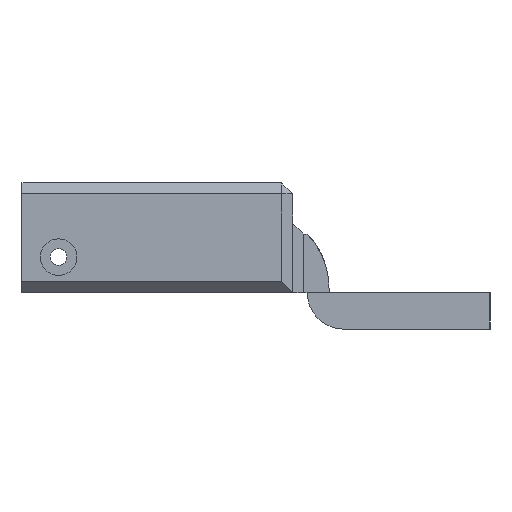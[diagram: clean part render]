
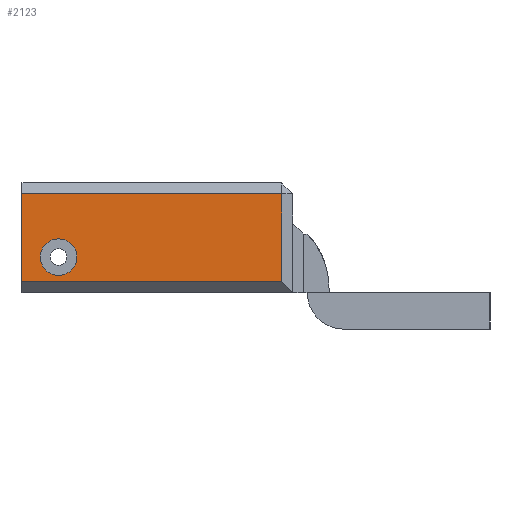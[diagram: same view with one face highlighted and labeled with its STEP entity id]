
A CAD part, left-side view. The second image highlights one B-rep face of the part: STEP entity #2123.
In plain terms, the highlighted planar face has unit normal (-1, 0, 0).
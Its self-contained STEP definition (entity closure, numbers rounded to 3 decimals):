
#170 = VERTEX_POINT('',#171);
#171 = CARTESIAN_POINT('',(-20.,37.,3.35));
#178 = CYLINDRICAL_SURFACE('',#179,2.5);
#179 = AXIS2_PLACEMENT_3D('',#180,#181,#182);
#180 = CARTESIAN_POINT('',(-19.9,37.,0.85));
#181 = DIRECTION('',(-1.,-0.,-0.));
#182 = DIRECTION('',(-0.,0.,1.));
#190 = CYLINDRICAL_SURFACE('',#191,2.5);
#191 = AXIS2_PLACEMENT_3D('',#192,#193,#194);
#192 = CARTESIAN_POINT('',(-19.9,37.,0.85));
#193 = DIRECTION('',(-1.,-0.,-0.));
#194 = DIRECTION('',(-0.,0.,1.));
#202 = EDGE_CURVE('',#203,#170,#205,.T.);
#203 = VERTEX_POINT('',#204);
#204 = CARTESIAN_POINT('',(-20.,37.,-1.65));
#205 = SURFACE_CURVE('',#206,(#211,#218),.PCURVE_S1.);
#206 = CIRCLE('',#207,2.5);
#207 = AXIS2_PLACEMENT_3D('',#208,#209,#210);
#208 = CARTESIAN_POINT('',(-20.,37.,0.85));
#209 = DIRECTION('',(-1.,0.,0.));
#210 = DIRECTION('',(0.,0.,1.));
#211 = PCURVE('',#178,#212);
#212 = DEFINITIONAL_REPRESENTATION('',(#213),#217);
#213 = LINE('',#214,#215);
#214 = CARTESIAN_POINT('',(0.,0.1));
#215 = VECTOR('',#216,1.);
#216 = DIRECTION('',(1.,0.));
#217 = ( GEOMETRIC_REPRESENTATION_CONTEXT(2) 
PARAMETRIC_REPRESENTATION_CONTEXT() REPRESENTATION_CONTEXT('2D SPACE',''
  ) );
#218 = PCURVE('',#219,#224);
#219 = PLANE('',#220);
#220 = AXIS2_PLACEMENT_3D('',#221,#222,#223);
#221 = CARTESIAN_POINT('',(-20.,5.,-4.));
#222 = DIRECTION('',(-1.,0.,0.));
#223 = DIRECTION('',(0.,0.,1.));
#224 = DEFINITIONAL_REPRESENTATION('',(#225),#229);
#225 = CIRCLE('',#226,2.5);
#226 = AXIS2_PLACEMENT_2D('',#227,#228);
#227 = CARTESIAN_POINT('',(4.85,32.));
#228 = DIRECTION('',(1.,0.));
#229 = ( GEOMETRIC_REPRESENTATION_CONTEXT(2) 
PARAMETRIC_REPRESENTATION_CONTEXT() REPRESENTATION_CONTEXT('2D SPACE',''
  ) );
#1333 = PLANE('',#1334);
#1334 = AXIS2_PLACEMENT_3D('',#1335,#1336,#1337);
#1335 = CARTESIAN_POINT('',(-18.5,7.,-4.));
#1336 = DIRECTION('',(-0.707,-0.,-0.707));
#1337 = DIRECTION('',(0.,-1.,0.));
#1361 = PLANE('',#1362);
#1362 = AXIS2_PLACEMENT_3D('',#1363,#1364,#1365);
#1363 = CARTESIAN_POINT('',(0.,42.,0.));
#1364 = DIRECTION('',(0.,1.,0.));
#1365 = DIRECTION('',(0.,-0.,1.));
#1745 = PLANE('',#1746);
#1746 = AXIS2_PLACEMENT_3D('',#1747,#1748,#1749);
#1747 = CARTESIAN_POINT('',(-20.,6.5,-4.));
#1748 = DIRECTION('',(-0.707,-0.707,-0.));
#1749 = DIRECTION('',(0.,0.,-1.));
#2012 = PLANE('',#2013);
#2013 = AXIS2_PLACEMENT_3D('',#2014,#2015,#2016);
#2014 = CARTESIAN_POINT('',(-20.,5.,9.5));
#2015 = DIRECTION('',(0.707,0.,-0.707));
#2016 = DIRECTION('',(0.,1.,0.));
#2123 = ADVANCED_FACE('',(#2124,#2149),#219,.T.);
#2124 = FACE_BOUND('',#2125,.T.);
#2125 = EDGE_LOOP('',(#2126,#2148));
#2126 = ORIENTED_EDGE('',*,*,#2127,.F.);
#2127 = EDGE_CURVE('',#170,#203,#2128,.T.);
#2128 = SURFACE_CURVE('',#2129,(#2134,#2141),.PCURVE_S1.);
#2129 = CIRCLE('',#2130,2.5);
#2130 = AXIS2_PLACEMENT_3D('',#2131,#2132,#2133);
#2131 = CARTESIAN_POINT('',(-20.,37.,0.85));
#2132 = DIRECTION('',(-1.,0.,0.));
#2133 = DIRECTION('',(0.,0.,1.));
#2134 = PCURVE('',#219,#2135);
#2135 = DEFINITIONAL_REPRESENTATION('',(#2136),#2140);
#2136 = CIRCLE('',#2137,2.5);
#2137 = AXIS2_PLACEMENT_2D('',#2138,#2139);
#2138 = CARTESIAN_POINT('',(4.85,32.));
#2139 = DIRECTION('',(1.,0.));
#2140 = ( GEOMETRIC_REPRESENTATION_CONTEXT(2) 
PARAMETRIC_REPRESENTATION_CONTEXT() REPRESENTATION_CONTEXT('2D SPACE',''
  ) );
#2141 = PCURVE('',#190,#2142);
#2142 = DEFINITIONAL_REPRESENTATION('',(#2143),#2147);
#2143 = LINE('',#2144,#2145);
#2144 = CARTESIAN_POINT('',(0.,0.1));
#2145 = VECTOR('',#2146,1.);
#2146 = DIRECTION('',(1.,0.));
#2147 = ( GEOMETRIC_REPRESENTATION_CONTEXT(2) 
PARAMETRIC_REPRESENTATION_CONTEXT() REPRESENTATION_CONTEXT('2D SPACE',''
  ) );
#2148 = ORIENTED_EDGE('',*,*,#202,.F.);
#2149 = FACE_BOUND('',#2150,.T.);
#2150 = EDGE_LOOP('',(#2151,#2176,#2199,#2222));
#2151 = ORIENTED_EDGE('',*,*,#2152,.T.);
#2152 = EDGE_CURVE('',#2153,#2155,#2157,.T.);
#2153 = VERTEX_POINT('',#2154);
#2154 = CARTESIAN_POINT('',(-20.,6.5,-2.5));
#2155 = VERTEX_POINT('',#2156);
#2156 = CARTESIAN_POINT('',(-20.,6.5,9.5));
#2157 = SURFACE_CURVE('',#2158,(#2162,#2169),.PCURVE_S1.);
#2158 = LINE('',#2159,#2160);
#2159 = CARTESIAN_POINT('',(-20.,6.5,11.));
#2160 = VECTOR('',#2161,1.);
#2161 = DIRECTION('',(0.,-0.,1.));
#2162 = PCURVE('',#219,#2163);
#2163 = DEFINITIONAL_REPRESENTATION('',(#2164),#2168);
#2164 = LINE('',#2165,#2166);
#2165 = CARTESIAN_POINT('',(15.,1.5));
#2166 = VECTOR('',#2167,1.);
#2167 = DIRECTION('',(1.,0.));
#2168 = ( GEOMETRIC_REPRESENTATION_CONTEXT(2) 
PARAMETRIC_REPRESENTATION_CONTEXT() REPRESENTATION_CONTEXT('2D SPACE',''
  ) );
#2169 = PCURVE('',#1745,#2170);
#2170 = DEFINITIONAL_REPRESENTATION('',(#2171),#2175);
#2171 = LINE('',#2172,#2173);
#2172 = CARTESIAN_POINT('',(-15.,0.));
#2173 = VECTOR('',#2174,1.);
#2174 = DIRECTION('',(-1.,0.));
#2175 = ( GEOMETRIC_REPRESENTATION_CONTEXT(2) 
PARAMETRIC_REPRESENTATION_CONTEXT() REPRESENTATION_CONTEXT('2D SPACE',''
  ) );
#2176 = ORIENTED_EDGE('',*,*,#2177,.T.);
#2177 = EDGE_CURVE('',#2155,#2178,#2180,.T.);
#2178 = VERTEX_POINT('',#2179);
#2179 = CARTESIAN_POINT('',(-20.,42.,9.5));
#2180 = SURFACE_CURVE('',#2181,(#2185,#2192),.PCURVE_S1.);
#2181 = LINE('',#2182,#2183);
#2182 = CARTESIAN_POINT('',(-20.,5.,9.5));
#2183 = VECTOR('',#2184,1.);
#2184 = DIRECTION('',(0.,1.,0.));
#2185 = PCURVE('',#219,#2186);
#2186 = DEFINITIONAL_REPRESENTATION('',(#2187),#2191);
#2187 = LINE('',#2188,#2189);
#2188 = CARTESIAN_POINT('',(13.5,0.));
#2189 = VECTOR('',#2190,1.);
#2190 = DIRECTION('',(0.,1.));
#2191 = ( GEOMETRIC_REPRESENTATION_CONTEXT(2) 
PARAMETRIC_REPRESENTATION_CONTEXT() REPRESENTATION_CONTEXT('2D SPACE',''
  ) );
#2192 = PCURVE('',#2012,#2193);
#2193 = DEFINITIONAL_REPRESENTATION('',(#2194),#2198);
#2194 = LINE('',#2195,#2196);
#2195 = CARTESIAN_POINT('',(0.,0.));
#2196 = VECTOR('',#2197,1.);
#2197 = DIRECTION('',(1.,0.));
#2198 = ( GEOMETRIC_REPRESENTATION_CONTEXT(2) 
PARAMETRIC_REPRESENTATION_CONTEXT() REPRESENTATION_CONTEXT('2D SPACE',''
  ) );
#2199 = ORIENTED_EDGE('',*,*,#2200,.F.);
#2200 = EDGE_CURVE('',#2201,#2178,#2203,.T.);
#2201 = VERTEX_POINT('',#2202);
#2202 = CARTESIAN_POINT('',(-20.,42.,-2.5));
#2203 = SURFACE_CURVE('',#2204,(#2208,#2215),.PCURVE_S1.);
#2204 = LINE('',#2205,#2206);
#2205 = CARTESIAN_POINT('',(-20.,42.,-4.));
#2206 = VECTOR('',#2207,1.);
#2207 = DIRECTION('',(0.,0.,1.));
#2208 = PCURVE('',#219,#2209);
#2209 = DEFINITIONAL_REPRESENTATION('',(#2210),#2214);
#2210 = LINE('',#2211,#2212);
#2211 = CARTESIAN_POINT('',(0.,37.));
#2212 = VECTOR('',#2213,1.);
#2213 = DIRECTION('',(1.,0.));
#2214 = ( GEOMETRIC_REPRESENTATION_CONTEXT(2) 
PARAMETRIC_REPRESENTATION_CONTEXT() REPRESENTATION_CONTEXT('2D SPACE',''
  ) );
#2215 = PCURVE('',#1361,#2216);
#2216 = DEFINITIONAL_REPRESENTATION('',(#2217),#2221);
#2217 = LINE('',#2218,#2219);
#2218 = CARTESIAN_POINT('',(-4.,-20.));
#2219 = VECTOR('',#2220,1.);
#2220 = DIRECTION('',(1.,0.));
#2221 = ( GEOMETRIC_REPRESENTATION_CONTEXT(2) 
PARAMETRIC_REPRESENTATION_CONTEXT() REPRESENTATION_CONTEXT('2D SPACE',''
  ) );
#2222 = ORIENTED_EDGE('',*,*,#2223,.T.);
#2223 = EDGE_CURVE('',#2201,#2153,#2224,.T.);
#2224 = SURFACE_CURVE('',#2225,(#2229,#2236),.PCURVE_S1.);
#2225 = LINE('',#2226,#2227);
#2226 = CARTESIAN_POINT('',(-20.,5.,-2.5));
#2227 = VECTOR('',#2228,1.);
#2228 = DIRECTION('',(0.,-1.,0.));
#2229 = PCURVE('',#219,#2230);
#2230 = DEFINITIONAL_REPRESENTATION('',(#2231),#2235);
#2231 = LINE('',#2232,#2233);
#2232 = CARTESIAN_POINT('',(1.5,0.));
#2233 = VECTOR('',#2234,1.);
#2234 = DIRECTION('',(0.,-1.));
#2235 = ( GEOMETRIC_REPRESENTATION_CONTEXT(2) 
PARAMETRIC_REPRESENTATION_CONTEXT() REPRESENTATION_CONTEXT('2D SPACE',''
  ) );
#2236 = PCURVE('',#1333,#2237);
#2237 = DEFINITIONAL_REPRESENTATION('',(#2238),#2242);
#2238 = LINE('',#2239,#2240);
#2239 = CARTESIAN_POINT('',(2.,2.121));
#2240 = VECTOR('',#2241,1.);
#2241 = DIRECTION('',(1.,0.));
#2242 = ( GEOMETRIC_REPRESENTATION_CONTEXT(2) 
PARAMETRIC_REPRESENTATION_CONTEXT() REPRESENTATION_CONTEXT('2D SPACE',''
  ) );
